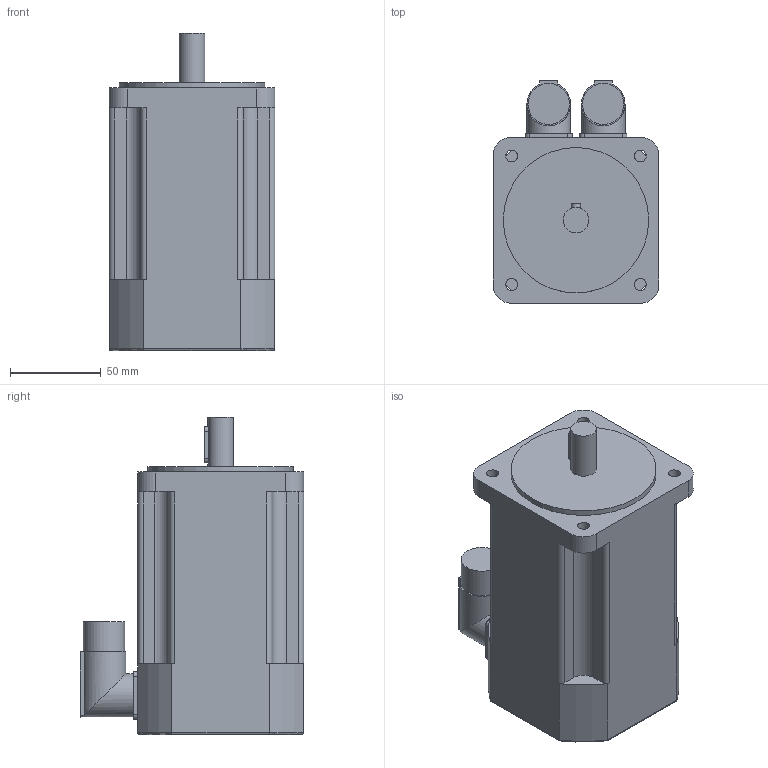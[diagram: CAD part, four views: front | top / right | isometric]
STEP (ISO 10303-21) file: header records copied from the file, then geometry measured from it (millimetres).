
FILE_DESCRIPTION(/* description */ (''),/* implementation_level */ '2;1');
FILE_NAME(/* name */ '\\Lafnas01\disegni\Archivi Lafert\3D\CAD 3D\MODELLI\Assiemi clienti\Serad\Modelli 3D Serad\B56Q\Resolver\Res Without Brake\B56F6Qxx6A052033.ipt.stp',/* time_stamp */ '2015-09-07T10:50:21+02:00',/* author */ ('Pastrello Ylenia'),/* organization */ (''),/* preprocessor_version */ 'ST-DEVELOPER v15.6',/* originating_system */ 'Autodesk Inventor 2015',/* authorisation */ '');
FILE_SCHEMA (('AUTOMOTIVE_DESIGN { 1 0 10303 214 3 1 1 }'));
Length unit declared in the file: millimetre
Products named in the file (1): B56F6Qxx6A052033
Bounding box: 91.3 x 122.8 x 174.5 mm (x, y, z)
Volume: 1139881.2 mm3; surface area: 78097.7 mm2
Topology: 1 solids, 1 shells, 99 faces, 260 edges, 170 vertices
Faces by surface type: plane 49, cylinder 46, torus 4
Full cylindrical faces by diameter (mm): 6.5 x4, 14 x1, 22.7 x2, 24 x2, 80 x1
Entity records: 3176 total; most frequent: CARTESIAN_POINT 658, DIRECTION 534, ORIENTED_EDGE 500, EDGE_CURVE 250, AXIS2_PLACEMENT_3D 194, VERTEX_POINT 170, LINE 146, VECTOR 146
